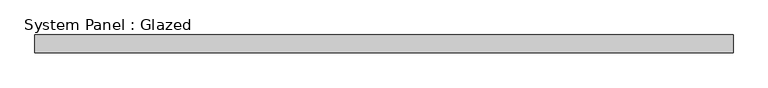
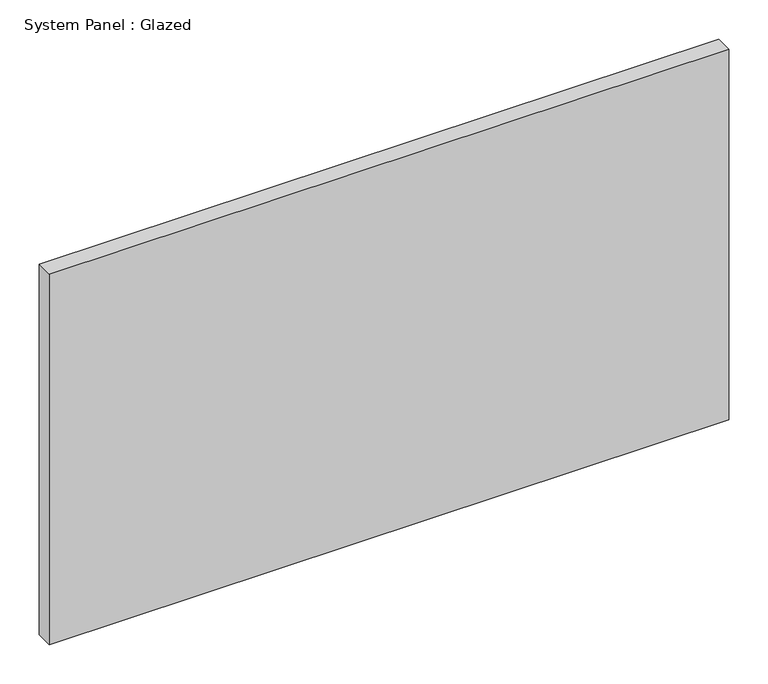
"""IFC4 building model written with IfcOpenShell, lengths in millimetres: plate geometry, System Panel : Glazed."""

import ifcopenshell
import ifcopenshell.guid

model = None  # the IFC model being written
_history = None  # IfcOwnerHistory: only IFC2X3 demands one
_inside = {}  # id of a spatial element -> (the spatial element, [elements in it])
_under = {}  # id of a project, library or spatial element -> (it, [spatial elements below it])
_declared = {}  # id of a project -> (the project, [libraries it declares])
_typed = {}  # id of a type object -> (the type object, [elements of that type])
_made_of = {}  # id of a material, layer set ... -> (it, [elements and type objects made of it])


def new_model(schema):
    """Start an empty IFC model of exactly this schema.

    Asked for "IFC4X3", IfcOpenShell would pick the latest addendum, in which some entities
    have other attributes; the version numbers below select the first issue.
    IFC2X3 requires an IfcOwnerHistory on every rooted entity: one is made here for all.
    """
    global model, _history
    if schema == "IFC4X3":
        model = ifcopenshell.file(schema_version=(4, 3, 0, 0))
    else:
        model = ifcopenshell.file(schema=schema)
    _inside.clear()
    _under.clear()
    _declared.clear()
    _typed.clear()
    _made_of.clear()
    _history = None
    if model.schema == "IFC2X3":
        org = make("IfcOrganization", Name="unknown")
        user = make(
            "IfcPersonAndOrganization",
            ThePerson=make("IfcPerson", FamilyName="unknown"),
            TheOrganization=org,
        )
        app = make(
            "IfcApplication",
            ApplicationDeveloper=org,
            Version="unknown",
            ApplicationFullName="unknown",
            ApplicationIdentifier="unknown",
        )
        _history = make(
            "IfcOwnerHistory",
            OwningUser=user,
            OwningApplication=app,
            ChangeAction="ADDED",
            CreationDate=0,
        )
    return model


def make(cls, **values):
    """One entity of the class cls with the attributes given. An attribute that is None is left unset."""
    return model.create_entity(
        cls, **{name: value for name, value in values.items() if value is not None}
    )


def rooted(cls, **values):
    """An entity with a GlobalId (a new one), such as an element, a storey or a relation."""
    return make(cls, GlobalId=ifcopenshell.guid.new(), OwnerHistory=_history, **values)


def si_unit(unit_type, name, prefix=None):
    """IfcSIUnit, for example si_unit("LENGTHUNIT", "METRE", prefix="MILLI")."""
    return make("IfcSIUnit", UnitType=unit_type, Prefix=prefix, Name=name)


def assignment(units):
    """IfcUnitAssignment: the units of a project."""
    return None if units is None else make("IfcUnitAssignment", Units=units)


def point(xyz):
    """IfcCartesianPoint."""
    return None if xyz is None else make("IfcCartesianPoint", Coordinates=xyz)


def direction(xyz):
    """IfcDirection."""
    return None if xyz is None else make("IfcDirection", DirectionRatios=xyz)


def frame(location, z_axis=None, x_axis=None):
    """IfcAxis2Placement3D, a coordinate frame: its origin and axes. An axis left out is left unset."""
    return make(
        "IfcAxis2Placement3D",
        Location=point(location),
        Axis=direction(z_axis),
        RefDirection=direction(x_axis),
    )


def origin():
    """The frame at (0, 0, 0) with its axes left unset."""
    return frame((0.0, 0.0, 0.0))


def origin_with_axes():
    """The frame at (0, 0, 0) with the z axis (0, 0, 1) and the x axis (1, 0, 0) written out."""
    return frame((0.0, 0.0, 0.0), z_axis=(0.0, 0.0, 1.0), x_axis=(1.0, 0.0, 0.0))


def place(relative_to, where):
    """IfcLocalPlacement: puts the frame where relative to a parent placement (None: the world)."""
    return make(
        "IfcLocalPlacement", PlacementRelTo=relative_to, RelativePlacement=where
    )


def context(
    kind, dimensions, precision=None, world=None, true_north=None, identifier=None
):
    """IfcGeometricRepresentationContext, for example the 3D "Model" context."""
    return make(
        "IfcGeometricRepresentationContext",
        ContextIdentifier=identifier,
        ContextType=kind,
        CoordinateSpaceDimension=dimensions,
        Precision=precision,
        WorldCoordinateSystem=world,
        TrueNorth=true_north,
    )


def project(units=None, contexts=None):
    """IfcProject with its units and contexts."""
    return rooted(
        "IfcProject",
        Name="project",
        RepresentationContexts=contexts,
        UnitsInContext=assignment(units),
    )


def spatial(cls, under=None, at=None, **own):
    """A site, building, storey or space (cls), placed at a placement, below another one or the project."""
    s = rooted(cls, ObjectPlacement=at, **own)
    if under is not None:
        _under.setdefault(under.id(), (under, []))[1].append(s)
    return s


def polyline(points):
    """IfcPolyline through the points."""
    return make("IfcPolyline", Points=[point(p) for p in points])


def outline(outer, holes=None, kind="AREA"):
    """IfcArbitraryClosedProfileDef: a profile drawn as a closed curve; with holes, ...WithVoids."""
    if holes is None:
        return make("IfcArbitraryClosedProfileDef", ProfileType=kind, OuterCurve=outer)
    return make(
        "IfcArbitraryProfileDefWithVoids",
        ProfileType=kind,
        OuterCurve=outer,
        InnerCurves=holes,
    )


def extrude(swept, where, along, depth):
    """IfcExtrudedAreaSolid: the profile swept, set in the frame where, extruded along a direction by depth."""
    return make(
        "IfcExtrudedAreaSolid",
        SweptArea=swept,
        Position=where,
        ExtrudedDirection=direction(along),
        Depth=depth,
    )


def shape(context_of_items, identifier, shape_type, items):
    """IfcShapeRepresentation: the items that make up one representation, for example the "Body"."""
    return make(
        "IfcShapeRepresentation",
        ContextOfItems=context_of_items,
        RepresentationIdentifier=identifier,
        RepresentationType=shape_type,
        Items=items,
    )


def source(mapping_origin, context_of_items, identifier, shape_type, items):
    """IfcRepresentationMap: a shape defined once, which mapped items show again and again."""
    return make(
        "IfcRepresentationMap",
        MappingOrigin=mapping_origin,
        MappedRepresentation=shape(context_of_items, identifier, shape_type, items),
    )


def transform(
    local_origin,
    x_axis=None,
    y_axis=None,
    z_axis=None,
    scale=None,
    scale2=None,
    scale3=None,
    uniform=True,
):
    """IfcCartesianTransformationOperator3D, or its non-uniform kind. x_axis, y_axis, z_axis: its Axis1, 2, 3."""
    if uniform:
        return make(
            "IfcCartesianTransformationOperator3D",
            Axis1=direction(x_axis),
            Axis2=direction(y_axis),
            LocalOrigin=point(local_origin),
            Scale=scale,
            Axis3=direction(z_axis),
        )
    return make(
        "IfcCartesianTransformationOperator3DnonUniform",
        Axis1=direction(x_axis),
        Axis2=direction(y_axis),
        LocalOrigin=point(local_origin),
        Scale=scale,
        Axis3=direction(z_axis),
        Scale2=scale2,
        Scale3=scale3,
    )


def mapped(mapping_source, mapping_target):
    """IfcMappedItem: shows the shape of a source again, moved by a transform."""
    return make(
        "IfcMappedItem", MappingSource=mapping_source, MappingTarget=mapping_target
    )


def made_of(thing, what):
    """Note that an element or type object is made of a material, layer set ...; save() writes the relation."""
    if what is not None:
        _made_of.setdefault(what.id(), (what, []))[1].append(thing)
    return thing


def element(
    cls,
    number,
    at=None,
    inside=None,
    cuts=None,
    type_object=None,
    material=None,
    context=None,
    identifier="Body",
    shape_type=None,
    held_by="IfcProductDefinitionShape",
    body=None,
    shapes=None,
    **own,
):
    """One element of the class cls, such as IfcWall. Its Tag is "e" and its number.

    at: its placement. inside: the storey or other place that contains it. cuts: it is an
    opening in that element (IfcRelVoidsElement). A single representation is given by context,
    identifier, shape_type and body (its items); several are given by shapes. held_by: the class
    of the entity that holds the representations. save() writes the other relations.
    """
    e = rooted(cls, Tag="e%d" % number, ObjectPlacement=at, **own)
    if body is not None:
        shapes = [shape(context, identifier, shape_type, body)]
    if shapes is not None:
        e.Representation = make(held_by, Representations=shapes)
    if inside is not None:
        _inside.setdefault(inside.id(), (inside, []))[1].append(e)
    if cuts is not None:
        rooted(
            "IfcRelVoidsElement", RelatingBuildingElement=cuts, RelatedOpeningElement=e
        )
    if type_object is not None:
        _typed.setdefault(type_object.id(), (type_object, []))[1].append(e)
    return made_of(e, material)


def aggregate(whole, parts):
    """IfcRelAggregates: a whole, such as a stair, and the parts it consists of."""
    return rooted("IfcRelAggregates", RelatingObject=whole, RelatedObjects=parts)


def save(model, path):
    """Write the relations noted so far, then the file.

    IfcRelAggregates (storeys below a building ...), IfcRelContainedInSpatialStructure (elements
    in a storey), IfcRelDefinesByType, IfcRelAssociatesMaterial and IfcRelDeclares: one each for
    every whole, place, type object, material and project.
    """
    for whole, parts in _under.values():
        aggregate(whole, parts)
    for where, things in _inside.values():
        rooted(
            "IfcRelContainedInSpatialStructure",
            RelatedElements=things,
            RelatingStructure=where,
        )
    for kind, things in _typed.values():
        rooted("IfcRelDefinesByType", RelatedObjects=things, RelatingType=kind)
    for what, things in _made_of.values():
        rooted("IfcRelAssociatesMaterial", RelatedObjects=things, RelatingMaterial=what)
    for by, libraries in _declared.values():
        rooted("IfcRelDeclares", RelatingContext=by, RelatedDefinitions=libraries)
    model.write(path)


def system_panel_glazed_2b550350(model_context):
    return source(origin(), model_context, "Body", "SweptSolid", [
        extrude(outline(polyline([(501.1964285, 19.05), (-501.1964285, 19.05), (-501.1964285, 44.45), (501.1964285, 44.45), (501.1964285, 19.05)])), origin_with_axes(), (0.0, 0.0, 1.0), 577.85),
    ])


if __name__ == "__main__":
    model = new_model("IFC4")
    model_context = context("Model", 3, world=origin())
    ifc_project = project(units=[si_unit("LENGTHUNIT", "METRE", prefix="MILLI")], contexts=[model_context])
    site = spatial("IfcSite", under=ifc_project)
    building = spatial("IfcBuilding", under=site)
    placement = place(None, origin())
    system_panel_glazed_shape = system_panel_glazed_2b550350(model_context)
    element("IfcPlate", 1, ObjectType="System Panel : Glazed", at=placement, inside=building, context=model_context, shape_type="MappedRepresentation", body=[
        mapped(system_panel_glazed_shape, transform((0.0, 0.0, 0.0), x_axis=(1.0, 0.0, 0.0), y_axis=(0.0, 1.0, 0.0), z_axis=(0.0, 0.0, 1.0))),
    ])
    save(model, "model.ifc")
